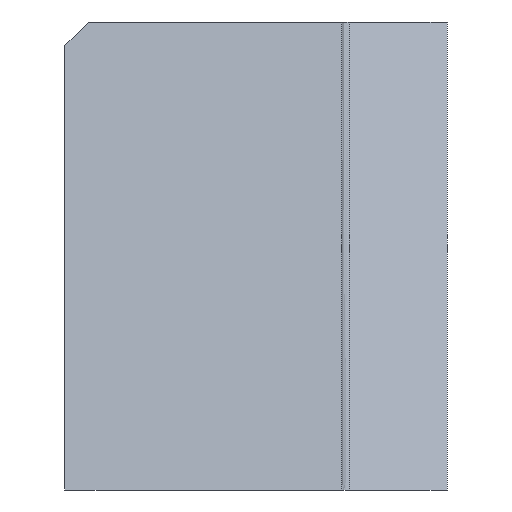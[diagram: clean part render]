
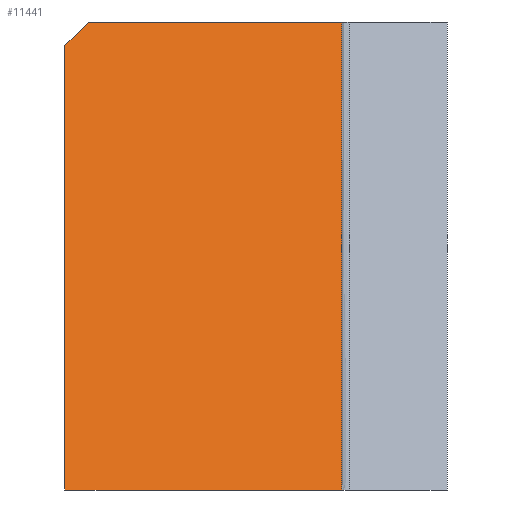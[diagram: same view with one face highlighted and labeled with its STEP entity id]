
A CAD part, left-side view. The second image highlights one B-rep face of the part: STEP entity #11441.
In plain terms, the highlighted planar face has unit normal (-0.943, 0, 0.334).
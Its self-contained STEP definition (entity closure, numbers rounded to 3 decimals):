
#1420=ORIENTED_EDGE('',*,*,#4854,.F.);
#1421=ORIENTED_EDGE('',*,*,#4855,.T.);
#1422=ORIENTED_EDGE('',*,*,#4125,.F.);
#1423=ORIENTED_EDGE('',*,*,#4856,.F.);
#1424=ORIENTED_EDGE('',*,*,#4551,.F.);
#4125=EDGE_CURVE('',#5842,#5843,#6963,.T.);
#4551=EDGE_CURVE('',#6267,#6269,#7256,.T.);
#4854=EDGE_CURVE('',#6571,#6267,#7459,.T.);
#4855=EDGE_CURVE('',#6571,#5843,#7460,.T.);
#4856=EDGE_CURVE('',#6269,#5842,#7461,.T.);
#5842=VERTEX_POINT('',#15878);
#5843=VERTEX_POINT('',#15879);
#6267=VERTEX_POINT('',#17605);
#6269=VERTEX_POINT('',#17608);
#6571=VERTEX_POINT('',#18214);
#6963=LINE('',#15877,#8316);
#7256=LINE('',#17607,#8609);
#7459=LINE('',#18213,#8812);
#7460=LINE('',#18215,#8813);
#7461=LINE('',#18216,#8814);
#8316=VECTOR('',#12745,1000.);
#8609=VECTOR('',#13040,1000.);
#8812=VECTOR('',#13445,1000.);
#8813=VECTOR('',#13446,1000.);
#8814=VECTOR('',#13447,1000.);
#9619=EDGE_LOOP('',(#1420,#1421,#1422,#1423,#1424));
#10324=FACE_BOUND('',#9619,.T.);
#10987=PLANE('',#12191);
#11441=ADVANCED_FACE('',(#10324),#10987,.T.);
#12191=AXIS2_PLACEMENT_3D('',#18212,#13443,#13444);
#12745=DIRECTION('',(0.,1.,0.));
#13040=DIRECTION('',(0.,-1.,0.));
#13443=DIRECTION('',(-0.942,0.,0.334));
#13444=DIRECTION('',(0.,1.,0.));
#13445=DIRECTION('',(0.243,-0.686,0.686));
#13446=DIRECTION('',(-0.334,0.,-0.942));
#13447=DIRECTION('',(-0.334,0.,-0.942));
#15877=CARTESIAN_POINT('',(-21.281,-35.5,-60.));
#15878=CARTESIAN_POINT('',(-21.281,-35.5,-60.));
#15879=CARTESIAN_POINT('',(-21.281,0.,-60.));
#17605=CARTESIAN_POINT('',(0.,-3.,0.));
#17607=CARTESIAN_POINT('',(0.,0.,0.));
#17608=CARTESIAN_POINT('',(0.,-35.5,0.));
#18212=CARTESIAN_POINT('',(0.,-35.5,0.));
#18213=CARTESIAN_POINT('',(2.609,-10.356,7.356));
#18214=CARTESIAN_POINT('',(-1.064,0.,-3.));
#18215=CARTESIAN_POINT('',(0.,0.,0.));
#18216=CARTESIAN_POINT('',(0.,-35.5,0.));
